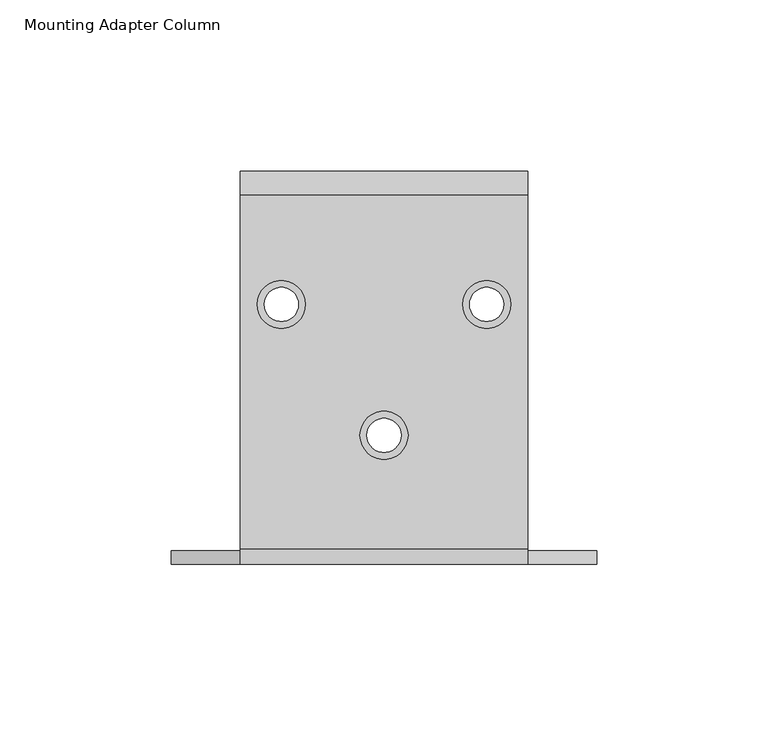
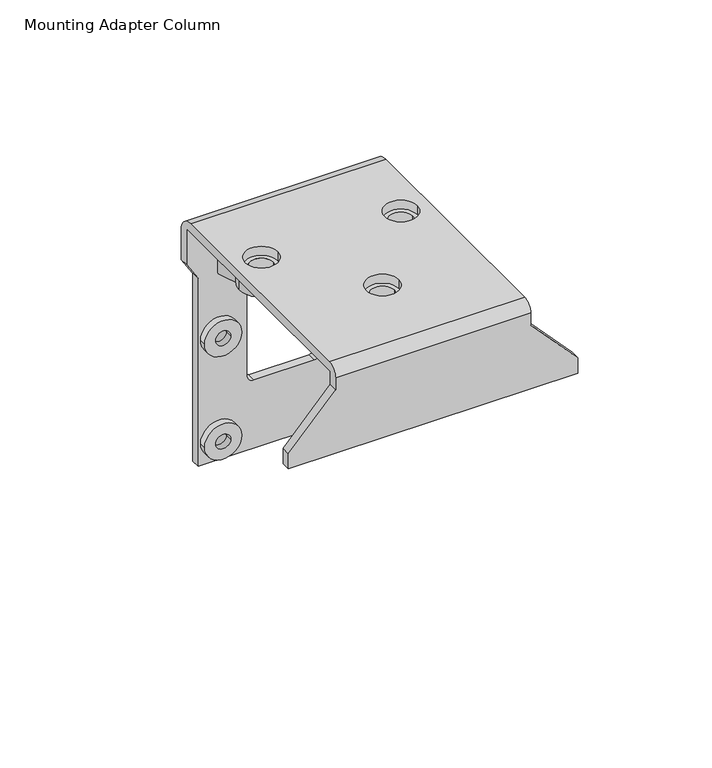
"""IFC4 building model written with IfcOpenShell, lengths in millimetres: proxy geometry, d&b xC-Series Mounting Adapter Column : Mounting Adapter Column."""

from ifc_helpers import new_model, si_unit, point, frame, frame_2d, origin, place, context, project, spatial, polyline, circle_curve, trimmed, segment, composite_curve, outline, extrude, source, transform, mapped, element, save
from ifc_brep_helpers import plane_surface, cylinder_surface, revolved_surface, advanced_brep


def mounting_adapter_column_6306ef07(model_context):
    return source(origin(), model_context, "Body", "SolidModel", [
        extrude(outline(composite_curve([segment(trimmed(circle_curve(frame_2d((12.0, -28.0)), 8.0), [point((12.0, -36.0))], [point((12.0, -20.0))], False, "CARTESIAN"), True, "CONTINUOUS"), segment(trimmed(circle_curve(frame_2d((12.0, -28.0)), 8.0), [point((12.0, -20.0))], [point((12.0, -36.0))], False, "CARTESIAN"), True, "CONTINUOUS")], self_intersect=False), holes=[composite_curve([segment(trimmed(circle_curve(frame_2d((12.0, -28.0)), 3.2497287), [point((12.0, -31.2497287))], [point((12.0, -24.7502713))], True, "CARTESIAN"), True, "CONTINUOUS"), segment(trimmed(circle_curve(frame_2d((12.0, -28.0)), 3.2497287), [point((12.0, -24.7502713))], [point((12.0, -31.2497287))], True, "CARTESIAN"), True, "CONTINUOUS")], self_intersect=False)]), frame((0.0, 51.75, 0.0), z_axis=(0.0, 1.0, 0.0), x_axis=(0.0, 0.0, 1.0)), (0.0, 0.0, 1.0), 3.0),
        extrude(outline(composite_curve([segment(trimmed(circle_curve(frame_2d((12.0, 28.0)), 8.0), [point((12.0, 36.0))], [point((12.0, 20.0))], False, "CARTESIAN"), True, "CONTINUOUS"), segment(trimmed(circle_curve(frame_2d((12.0, 28.0)), 8.0), [point((12.0, 20.0))], [point((12.0, 36.0))], False, "CARTESIAN"), True, "CONTINUOUS")], self_intersect=False), holes=[composite_curve([segment(trimmed(circle_curve(frame_2d((12.0, 28.0)), 3.2497287), [point((12.0, 24.7502713))], [point((12.0, 31.2497287))], True, "CARTESIAN"), True, "CONTINUOUS"), segment(trimmed(circle_curve(frame_2d((12.0, 28.0)), 3.2497287), [point((12.0, 31.2497287))], [point((12.0, 24.7502713))], True, "CARTESIAN"), True, "CONTINUOUS")], self_intersect=False)]), frame((0.0, 51.75, 0.0), z_axis=(0.0, 1.0, 0.0), x_axis=(0.0, 0.0, 1.0)), (0.0, 0.0, 1.0), 3.0),
        extrude(outline(composite_curve([segment(trimmed(circle_curve(frame_2d((-35.0, -28.0)), 8.0), [point((-35.0, -36.0))], [point((-35.0, -20.0))], False, "CARTESIAN"), True, "CONTINUOUS"), segment(trimmed(circle_curve(frame_2d((-35.0, -28.0)), 8.0), [point((-35.0, -20.0))], [point((-35.0, -36.0))], False, "CARTESIAN"), True, "CONTINUOUS")], self_intersect=False), holes=[composite_curve([segment(trimmed(circle_curve(frame_2d((-35.0, -28.0)), 3.2497287), [point((-35.0, -31.2497287))], [point((-35.0, -24.7502713))], True, "CARTESIAN"), True, "CONTINUOUS"), segment(trimmed(circle_curve(frame_2d((-35.0, -28.0)), 3.2497287), [point((-35.0, -24.7502713))], [point((-35.0, -31.2497287))], True, "CARTESIAN"), True, "CONTINUOUS")], self_intersect=False)]), frame((0.0, 51.75, 0.0), z_axis=(0.0, 1.0, 0.0), x_axis=(0.0, 0.0, 1.0)), (0.0, 0.0, 1.0), 3.0),
        extrude(outline(composite_curve([segment(trimmed(circle_curve(frame_2d((-35.0, 28.0)), 8.0), [point((-35.0, 36.0))], [point((-35.0, 20.0))], False, "CARTESIAN"), True, "CONTINUOUS"), segment(trimmed(circle_curve(frame_2d((-35.0, 28.0)), 8.0), [point((-35.0, 20.0))], [point((-35.0, 36.0))], False, "CARTESIAN"), True, "CONTINUOUS")], self_intersect=False), holes=[composite_curve([segment(trimmed(circle_curve(frame_2d((-35.0, 28.0)), 3.2497287), [point((-35.0, 24.7502713))], [point((-35.0, 31.2497287))], True, "CARTESIAN"), True, "CONTINUOUS"), segment(trimmed(circle_curve(frame_2d((-35.0, 28.0)), 3.2497287), [point((-35.0, 31.2497287))], [point((-35.0, 24.7502713))], True, "CARTESIAN"), True, "CONTINUOUS")], self_intersect=False)]), frame((0.0, 51.75, 0.0), z_axis=(0.0, 1.0, 0.0), x_axis=(0.0, 0.0, 1.0)), (0.0, 0.0, 1.0), 3.0),
        advanced_brep(
        [(42.0, -52.25, 59.0), (42.0, -52.25, 65.0), (42.0, 54.75, 65.0), (42.0, 54.75, 48.4019352), (42.0, 58.75, 48.4019352), (42.0, 58.75, 62.0), (42.0, 51.75, 69.0), (42.0, -51.75, 69.0), (42.0, -56.25, 64.5), (42.0, -56.25, 59.0), (-42.0, -56.25, 59.0), (-42.0, -56.25, 64.5), (-42.0, -51.75, 69.0), (-42.0, 51.75, 69.0), (-42.0, 58.75, 62.0), (-42.0, 58.75, 48.4019352), (-42.0, 54.75, 48.4019352), (-42.0, 54.75, 65.0), (-42.0, -52.25, 65.0), (-42.0, -52.25, 59.0), (-62.25, -56.25, 37.0), (-62.25, -56.25, 30.0), (62.25, -56.25, 30.0), (62.25, -56.25, 37.0), (62.25, -52.25, 37.0), (62.25, -52.25, 30.0), (-62.25, -52.25, 30.0), (-62.25, -52.25, 37.0), (-28.8426067, 54.75, 65.0), (-17.9431901, 24.8040989, 65.0), (-14.1844196, 26.1721794, 65.0), (-24.5858956, 54.75, 65.0), (24.5858956, 54.75, 65.0), (14.1844196, 26.1721794, 65.0), (17.9431901, 24.8040989, 65.0), (28.8426067, 54.75, 65.0), (-37.0161123, 19.75, 65.0), (-22.9838877, 19.75, 65.0), (22.9838877, 19.75, 65.0), (37.0161123, 19.75, 65.0), (-7.0161123, -18.5, 65.0), (7.0161123, -18.5, 65.0), (28.8426067, 54.75, 40.0), (24.5858956, 54.75, 40.0), (-24.5858956, 54.75, 40.0), (-28.8426067, 54.75, 40.0), (-37.0, 54.75, 40.5814234), (-37.0, 54.75, -45.0), (37.0, 54.75, -45.0), (37.0, 54.75, 40.5814234), (16.0, 54.75, 28.0), (16.0, 54.75, -11.0), (13.0, 54.75, -14.0), (-13.0, 54.75, -14.0), (-16.0, 54.75, -11.0), (-16.0, 54.75, 28.0), (-31.2497287, 54.75, 12.0), (-24.7502713, 54.75, 12.0), (31.2497287, 54.75, 12.0), (24.7502713, 54.75, 12.0), (-31.2497287, 54.75, -35.0), (-24.7502713, 54.75, -35.0), (31.2497287, 54.75, -35.0), (24.7502713, 54.75, -35.0), (37.0, 58.75, 40.5814234), (37.0, 58.75, -45.0), (-37.0, 58.75, -45.0), (-37.0, 58.75, 40.5814234), (16.0, 58.75, 28.0), (-16.0, 58.75, 28.0), (-16.0, 58.75, -11.0), (-13.0, 58.75, -14.0), (13.0, 58.75, -14.0), (16.0, 58.75, -11.0), (-31.2497287, 58.75, 12.0), (-24.7502713, 58.75, 12.0), (31.2497287, 58.75, 12.0), (24.7502713, 58.75, 12.0), (-31.2497287, 58.75, -35.0), (-24.7502713, 58.75, -35.0), (31.2497287, 58.75, -35.0), (24.7502713, 58.75, -35.0), (-37.0161123, 19.75, 69.0), (-22.9838877, 19.75, 69.0), (22.9838877, 19.75, 69.0), (37.0161123, 19.75, 69.0), (-7.0161123, -18.5, 69.0), (7.0161123, -18.5, 69.0), (-14.1844196, 26.1721794, 59.0), (-20.6828023, 44.0263392, 40.0), (-24.4415728, 42.6582587, 40.0), (-17.9431901, 24.8040989, 59.0), (20.6828023, 44.0263392, 40.0), (14.1844196, 26.1721794, 59.0), (24.4415728, 42.6582587, 40.0), (17.9431901, 24.8040989, 59.0)],
        [
            (0, 1),
            (1, 2),
            (2, 3),
            (3, 4),
            (4, 5),
            (5, 6, circle_curve(frame((42.0, 51.75, 62.0), z_axis=(1.0, 0.0, 0.0), x_axis=(0.0, 0.0, 1.0)), 7.0)),
            (6, 7),
            (7, 8, circle_curve(frame((42.0, -51.75, 64.5), z_axis=(1.0, 0.0, 0.0), x_axis=(0.0, 0.0, 1.0)), 4.5)),
            (8, 9),
            (9, 0),
            (10, 11),
            (11, 12, circle_curve(frame((-42.0, -51.75, 64.5), z_axis=(-1.0, 0.0, 0.0), x_axis=(0.0, 0.0, 1.0)), 4.5)),
            (12, 13),
            (13, 14, circle_curve(frame((-42.0, 51.75, 62.0), z_axis=(-1.0, 0.0, 0.0), x_axis=(0.0, 0.0, 1.0)), 7.0)),
            (14, 15),
            (15, 16),
            (16, 17),
            (17, 18),
            (18, 19),
            (19, 10),
            (7, 12),
            (11, 8),
            (10, 20),
            (20, 21),
            (21, 22),
            (22, 23),
            (23, 9),
            (0, 24),
            (24, 25),
            (25, 26),
            (26, 27),
            (27, 19),
            (18, 1),
            (17, 28),
            (28, 29),
            (29, 30),
            (30, 31),
            (31, 32),
            (32, 33),
            (33, 34),
            (34, 35),
            (35, 2),
            (36, 37, circle_curve(frame((-30.0, 19.75, 65.0), z_axis=(0.0, 0.0, 1.0), x_axis=(1.0, 0.0, 0.0)), 7.0161123)),
            (37, 36, circle_curve(frame((-30.0, 19.75, 65.0), z_axis=(0.0, 0.0, 1.0), x_axis=(1.0, 0.0, 0.0)), 7.0161123)),
            (38, 39, circle_curve(frame((30.0, 19.75, 65.0), z_axis=(0.0, 0.0, 1.0), x_axis=(1.0, 0.0, 0.0)), 7.0161123)),
            (39, 38, circle_curve(frame((30.0, 19.75, 65.0), z_axis=(0.0, 0.0, 1.0), x_axis=(1.0, 0.0, 0.0)), 7.0161123)),
            (40, 41, circle_curve(frame((0.0, -18.5, 65.0), z_axis=(0.0, 0.0, 1.0), x_axis=(1.0, 0.0, 0.0)), 7.0161123)),
            (41, 40, circle_curve(frame((0.0, -18.5, 65.0), z_axis=(0.0, 0.0, 1.0), x_axis=(1.0, 0.0, 0.0)), 7.0161123)),
            (35, 42),
            (42, 43),
            (43, 32),
            (31, 44),
            (44, 45),
            (45, 28),
            (16, 46),
            (46, 47),
            (47, 48),
            (48, 49),
            (49, 3),
            (50, 51),
            (51, 52, circle_curve(frame((13.0, 54.75, -11.0), z_axis=(0.0, 1.0, 0.0), x_axis=(1.0, 0.0, 0.0)), 3.0)),
            (52, 53),
            (53, 54, circle_curve(frame((-13.0, 54.75, -11.0), z_axis=(0.0, 1.0, 0.0), x_axis=(1.0, 0.0, 0.0)), 3.0)),
            (54, 55),
            (55, 50),
            (56, 57, circle_curve(frame((-28.0, 54.75, 12.0), z_axis=(0.0, 1.0, 0.0), x_axis=(1.0, 0.0, 0.0)), 3.2497287)),
            (57, 56, circle_curve(frame((-28.0, 54.75, 12.0), z_axis=(0.0, 1.0, 0.0), x_axis=(1.0, 0.0, 0.0)), 3.2497287)),
            (58, 59, circle_curve(frame((28.0, 54.75, 12.0), z_axis=(0.0, 1.0, 0.0), x_axis=(-1.0, 0.0, 0.0)), 3.2497287)),
            (59, 58, circle_curve(frame((28.0, 54.75, 12.0), z_axis=(0.0, 1.0, 0.0), x_axis=(-1.0, 0.0, 0.0)), 3.2497287)),
            (60, 61, circle_curve(frame((-28.0, 54.75, -35.0), z_axis=(0.0, 1.0, 0.0), x_axis=(1.0, 0.0, 0.0)), 3.2497287)),
            (61, 60, circle_curve(frame((-28.0, 54.75, -35.0), z_axis=(0.0, 1.0, 0.0), x_axis=(1.0, 0.0, 0.0)), 3.2497287)),
            (62, 63, circle_curve(frame((28.0, 54.75, -35.0), z_axis=(0.0, 1.0, 0.0), x_axis=(-1.0, 0.0, 0.0)), 3.2497287)),
            (63, 62, circle_curve(frame((28.0, 54.75, -35.0), z_axis=(0.0, 1.0, 0.0), x_axis=(-1.0, 0.0, 0.0)), 3.2497287)),
            (4, 64),
            (64, 65),
            (65, 66),
            (66, 67),
            (67, 15),
            (14, 5),
            (68, 69),
            (69, 70),
            (70, 71, circle_curve(frame((-13.0, 58.75, -11.0), z_axis=(0.0, -1.0, 0.0), x_axis=(1.0, 0.0, 0.0)), 3.0)),
            (71, 72),
            (72, 73, circle_curve(frame((13.0, 58.75, -11.0), z_axis=(0.0, -1.0, 0.0), x_axis=(1.0, 0.0, 0.0)), 3.0)),
            (73, 68),
            (74, 75, circle_curve(frame((-28.0, 58.75, 12.0), z_axis=(0.0, -1.0, 0.0), x_axis=(1.0, 0.0, 0.0)), 3.2497287)),
            (75, 74, circle_curve(frame((-28.0, 58.75, 12.0), z_axis=(0.0, -1.0, 0.0), x_axis=(1.0, 0.0, 0.0)), 3.2497287)),
            (76, 77, circle_curve(frame((28.0, 58.75, 12.0), z_axis=(0.0, -1.0, 0.0), x_axis=(-1.0, 0.0, 0.0)), 3.2497287)),
            (77, 76, circle_curve(frame((28.0, 58.75, 12.0), z_axis=(0.0, -1.0, 0.0), x_axis=(-1.0, 0.0, 0.0)), 3.2497287)),
            (78, 79, circle_curve(frame((-28.0, 58.75, -35.0), z_axis=(0.0, -1.0, 0.0), x_axis=(1.0, 0.0, 0.0)), 3.2497287)),
            (79, 78, circle_curve(frame((-28.0, 58.75, -35.0), z_axis=(0.0, -1.0, 0.0), x_axis=(1.0, 0.0, 0.0)), 3.2497287)),
            (80, 81, circle_curve(frame((28.0, 58.75, -35.0), z_axis=(0.0, -1.0, 0.0), x_axis=(-1.0, 0.0, 0.0)), 3.2497287)),
            (81, 80, circle_curve(frame((28.0, 58.75, -35.0), z_axis=(0.0, -1.0, 0.0), x_axis=(-1.0, 0.0, 0.0)), 3.2497287)),
            (13, 6),
            (82, 83, circle_curve(frame((-30.0, 19.75, 69.0), z_axis=(0.0, 0.0, -1.0), x_axis=(1.0, 0.0, 0.0)), 7.0161123)),
            (83, 82, circle_curve(frame((-30.0, 19.75, 69.0), z_axis=(0.0, 0.0, -1.0), x_axis=(1.0, 0.0, 0.0)), 7.0161123)),
            (84, 85, circle_curve(frame((30.0, 19.75, 69.0), z_axis=(0.0, 0.0, -1.0), x_axis=(1.0, 0.0, 0.0)), 7.0161123)),
            (85, 84, circle_curve(frame((30.0, 19.75, 69.0), z_axis=(0.0, 0.0, -1.0), x_axis=(1.0, 0.0, 0.0)), 7.0161123)),
            (86, 87, circle_curve(frame((0.0, -18.5, 69.0), z_axis=(0.0, 0.0, -1.0), x_axis=(1.0, 0.0, 0.0)), 7.0161123)),
            (87, 86, circle_curve(frame((0.0, -18.5, 69.0), z_axis=(0.0, 0.0, -1.0), x_axis=(1.0, 0.0, 0.0)), 7.0161123)),
            (82, 36),
            (37, 83),
            (84, 38),
            (39, 85),
            (86, 40),
            (41, 87),
            (30, 88),
            (88, 89),
            (89, 44),
            (90, 91),
            (91, 29),
            (45, 90),
            (89, 90),
            (91, 88),
            (49, 64),
            (67, 46),
            (66, 47),
            (65, 48),
            (50, 68),
            (73, 51),
            (72, 52),
            (71, 53),
            (70, 54),
            (69, 55),
            (56, 74),
            (75, 57),
            (58, 76),
            (77, 59),
            (60, 78),
            (79, 61),
            (62, 80),
            (81, 63),
            (92, 93),
            (93, 33),
            (43, 92),
            (94, 42),
            (34, 95),
            (95, 94),
            (94, 92),
            (93, 95),
            (22, 25),
            (24, 23),
            (27, 20),
            (26, 21),
        ],
        [
            plane_surface(frame((42.0, 44.75, 69.0), z_axis=(1.0, 0.0, 0.0), x_axis=(0.0, 0.0, -1.0))),
            plane_surface(frame((-42.0, 44.75, 69.0), z_axis=(-1.0, 0.0, 0.0), x_axis=(0.0, 0.0, 1.0))),
            cylinder_surface(frame((0.0, -51.75, 64.5), z_axis=(1.0, 0.0, 0.0), x_axis=(0.0, 0.0, 1.0)), 4.5),
            plane_surface(frame((42.0, -56.25, 64.5), z_axis=(0.0, -1.0, 0.0), x_axis=(-1.0, 0.0, 0.0))),
            plane_surface(frame((42.0, -52.25, 59.0), z_axis=(0.0, 1.0, 0.0), x_axis=(-1.0, 0.0, 0.0))),
            plane_surface(frame((42.0, 44.75, 65.0), z_axis=(0.0, 0.0, -1.0), x_axis=(-1.0, 0.0, 0.0))),
            plane_surface(frame((42.0, 54.75, 65.0), z_axis=(0.0, -1.0, 0.0), x_axis=(-1.0, 0.0, 0.0))),
            plane_surface(frame((42.0, 58.75, 48.4019352), z_axis=(0.0, 1.0, 0.0), x_axis=(-1.0, 0.0, 0.0))),
            cylinder_surface(frame((-42.0, 51.75, 62.0), z_axis=(1.0, 0.0, 0.0), x_axis=(0.0, 0.0, 1.0)), 7.0),
            plane_surface(frame((42.0, 51.75, 69.0), z_axis=(0.0, 0.0, 1.0), x_axis=(-1.0, 0.0, 0.0))),
            revolved_surface(polyline([(-22.9838877, 19.75, 65.0), (-22.9838877, 19.75, 69.0)]), (-30.0, 19.75, 0.0), (0.0, 0.0, -1.0)),
            revolved_surface(polyline([(37.0161123, 19.75, 65.0), (37.0161123, 19.75, 69.0)]), (30.0, 19.75, 0.0), (0.0, 0.0, -1.0)),
            revolved_surface(polyline([(7.0161123, -18.5, 65.0), (7.0161123, -18.5, 69.0)]), (0.0, -18.5, 0.0), (0.0, 0.0, -1.0)),
            plane_surface(frame((-25.0838362, 56.1180806, 40.0), z_axis=(0.9396926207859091, 0.34202014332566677, 0.0), x_axis=(-0.34202014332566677, 0.9396926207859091, 0.0))),
            plane_surface(frame((-28.8426067, 54.75, 40.0), z_axis=(-0.9396926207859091, -0.34202014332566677, 0.0), x_axis=(0.34202014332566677, -0.9396926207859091, 0.0))),
            plane_surface(frame((-20.6828023, 44.0263392, 40.0), z_axis=(0.0, 0.0, -1.0), x_axis=(-0.939692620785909, -0.34202014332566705, 0.0))),
            plane_surface(frame((-14.1844196, 26.1721794, 65.0), z_axis=(0.34202014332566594, -0.9396926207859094, 0.0), x_axis=(-0.9396926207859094, -0.34202014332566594, 0.0))),
            plane_surface(frame((-14.1844196, 26.1721794, 59.0), z_axis=(0.24184476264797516, -0.6644630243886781, -0.7071067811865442), x_axis=(-0.939692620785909, -0.34202014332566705, 0.0))),
            plane_surface(frame((37.0, 54.75, 40.5814234), z_axis=(0.8425221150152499, 0.0, -0.5386617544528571), x_axis=(0.0, 1.0, 0.0))),
            plane_surface(frame((-42.0, 54.75, 48.4019352), z_axis=(-0.84252211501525, 0.0, -0.538661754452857), x_axis=(0.0, 1.0, 0.0))),
            plane_surface(frame((-37.0, 54.75, 40.5814234), z_axis=(-1.0, 0.0, 0.0), x_axis=(0.0, 1.0, 0.0))),
            plane_surface(frame((-37.0, 54.75, -45.0), z_axis=(0.0, 0.0, -1.0), x_axis=(0.0, 1.0, 0.0))),
            plane_surface(frame((37.0, 54.75, -45.0), z_axis=(1.0, 0.0, 0.0), x_axis=(0.0, 1.0, 0.0))),
            plane_surface(frame((16.0, 54.75, 28.0), z_axis=(-1.0, 0.0, 0.0), x_axis=(0.0, 1.0, 0.0))),
            revolved_surface(polyline([(16.0, 58.75, -11.0), (16.0, 54.75, -11.0)]), (13.0, 0.0, -11.0), (0.0, 1.0, 0.0)),
            plane_surface(frame((13.0, 54.75, -14.0), z_axis=(0.0, 0.0, 1.0), x_axis=(0.0, 1.0, 0.0))),
            revolved_surface(polyline([(-10.0, 58.75, -11.0), (-10.0, 54.75, -11.0)]), (-13.0, 0.0, -11.0), (0.0, 1.0, 0.0)),
            plane_surface(frame((-16.0, 54.75, -11.0), z_axis=(1.0, 0.0, 0.0), x_axis=(0.0, 1.0, 0.0))),
            plane_surface(frame((-16.0, 54.75, 28.0), z_axis=(0.0, 0.0, -1.0), x_axis=(0.0, 1.0, 0.0))),
            revolved_surface(polyline([(-24.7502713, 58.75, 12.0), (-24.7502713, 54.75, 12.0)]), (-28.0, 0.0, 12.0), (0.0, 1.0, 0.0)),
            revolved_surface(polyline([(24.7502713, 58.75, 12.0), (24.7502713, 54.75, 12.0)]), (28.0, 0.0, 12.0), (0.0, 1.0, 0.0)),
            revolved_surface(polyline([(-24.7502713, 58.75, -35.0), (-24.7502713, 54.75, -35.0)]), (-28.0, 0.0, -35.0), (0.0, 1.0, 0.0)),
            revolved_surface(polyline([(24.7502713, 58.75, -35.0), (24.7502713, 54.75, -35.0)]), (28.0, 0.0, -35.0), (0.0, 1.0, 0.0)),
            plane_surface(frame((14.1844196, 26.1721794, 59.0), z_axis=(-0.9396926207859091, 0.34202014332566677, 0.0), x_axis=(-0.2418447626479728, -0.6644630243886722, 0.7071067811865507))),
            plane_surface(frame((17.9431901, 24.8040989, 59.0), z_axis=(0.9396926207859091, -0.34202014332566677, 0.0), x_axis=(0.2418447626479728, 0.6644630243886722, -0.7071067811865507))),
            plane_surface(frame((25.0838362, 56.1180806, 40.0), z_axis=(0.0, 0.0, -1.0000000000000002), x_axis=(0.9396926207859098, -0.3420201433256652, 0.0))),
            plane_surface(frame((14.1844196, 26.1721794, 59.0), z_axis=(-0.3420201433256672, -0.939692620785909, 0.0), x_axis=(0.939692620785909, -0.3420201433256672, 0.0))),
            plane_surface(frame((20.6828023, 44.0263392, 40.0), z_axis=(-0.24184476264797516, -0.6644630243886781, -0.7071067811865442), x_axis=(0.939692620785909, -0.34202014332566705, 0.0))),
            plane_surface(frame((62.25, -56.25, 30.0), z_axis=(1.0, 0.0, 0.0), x_axis=(0.0, 1.0, 0.0))),
            plane_surface(frame((62.25, -56.25, 37.0), z_axis=(0.7357643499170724, 0.0, 0.6772376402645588), x_axis=(0.0, 1.0, 0.0))),
            plane_surface(frame((-42.0, -56.25, 59.0), z_axis=(-0.7357643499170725, 0.0, 0.6772376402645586), x_axis=(0.0, 1.0, 0.0))),
            plane_surface(frame((-62.25, -56.25, 37.0), z_axis=(-1.0, 0.0, 0.0), x_axis=(0.0, 1.0, 0.0))),
            plane_surface(frame((-62.25, -56.25, 30.0), z_axis=(0.0, 0.0, -1.0), x_axis=(0.0, 1.0, 0.0))),
        ],
        [
            (0, [[1, 2, 3, 4, 5, 6, 7, 8, 9, 10]]),
            (1, [[11, 12, 13, 14, 15, 16, 17, 18, 19, 20]]),
            (2, [[-8, 21, -12, 22]]),
            (3, [[-9, -22, -11, 23, 24, 25, 26, 27]]),
            (4, [[-1, 28, 29, 30, 31, 32, -19, 33]]),
            (5, [[-33, -18, 34, 35, 36, 37, 38, 39, 40, 41, 42, -2], [43, 44], [45, 46], [47, 48]]),
            (6, [[-3, -42, 49, 50, 51, -38, 52, 53, 54, -34, -17, 55, 56, 57, 58, 59], [60, 61, 62, 63, 64, 65], [66, 67], [68, 69], [70, 71], [72, 73]]),
            (7, [[-5, 74, 75, 76, 77, 78, -15, 79], [80, 81, 82, 83, 84, 85], [86, 87], [88, 89], [90, 91], [92, 93]]),
            (8, [[-6, -79, -14, 94]]),
            (9, [[-21, -7, -94, -13], [95, 96], [97, 98], [99, 100]]),
            (10, [[-95, 101, -44, 102]]),
            (10, [[-96, -102, -43, -101]]),
            (11, [[-97, 103, -46, 104]]),
            (11, [[-98, -104, -45, -103]]),
            (12, [[-99, 105, -48, 106]]),
            (12, [[-100, -106, -47, -105]]),
            (13, [[107, 108, 109, -52, -37]]),
            (14, [[110, 111, -35, -54, 112]]),
            (15, [[-112, -53, -109, 113]]),
            (16, [[-107, -36, -111, 114]]),
            (17, [[-108, -114, -110, -113]]),
            (18, [[-59, 115, -74, -4]]),
            (19, [[-55, -16, -78, 116]]),
            (20, [[-56, -116, -77, 117]]),
            (21, [[-57, -117, -76, 118]]),
            (22, [[-58, -118, -75, -115]]),
            (23, [[-60, 119, -85, 120]]),
            (24, [[-61, -120, -84, 121]]),
            (25, [[-62, -121, -83, 122]]),
            (26, [[-63, -122, -82, 123]]),
            (27, [[-64, -123, -81, 124]]),
            (28, [[-65, -124, -80, -119]]),
            (29, [[-66, 125, -87, 126]]),
            (29, [[-67, -126, -86, -125]]),
            (30, [[-68, 127, -89, 128]]),
            (30, [[-69, -128, -88, -127]]),
            (31, [[-70, 129, -91, 130]]),
            (31, [[-71, -130, -90, -129]]),
            (32, [[-72, 131, -93, 132]]),
            (32, [[-73, -132, -92, -131]]),
            (33, [[133, 134, -39, -51, 135]]),
            (34, [[136, -49, -41, 137, 138]]),
            (35, [[-136, 139, -135, -50]]),
            (36, [[-134, 140, -137, -40]]),
            (37, [[-133, -139, -138, -140]]),
            (38, [[-26, 141, -29, 142]]),
            (39, [[-27, -142, -28, -10]]),
            (40, [[-23, -20, -32, 143]]),
            (41, [[-24, -143, -31, 144]]),
            (42, [[-25, -144, -30, -141]]),
        ],
    ),
        extrude(outline(composite_curve([segment(trimmed(circle_curve(frame_2d((-30.0, 19.75)), 9.5099435), [point((-39.5099435, 19.75))], [point((-20.4900565, 19.75))], False, "CARTESIAN"), True, "CONTINUOUS"), segment(trimmed(circle_curve(frame_2d((-30.0, 19.75)), 9.5099435), [point((-20.4900565, 19.75))], [point((-39.5099435, 19.75))], False, "CARTESIAN"), True, "CONTINUOUS")], self_intersect=False), holes=[composite_curve([segment(trimmed(circle_curve(frame_2d((-30.0, 19.75)), 5.0), [point((-35.0, 19.75))], [point((-25.0, 19.75))], True, "CARTESIAN"), True, "CONTINUOUS"), segment(trimmed(circle_curve(frame_2d((-30.0, 19.75)), 5.0), [point((-25.0, 19.75))], [point((-35.0, 19.75))], True, "CARTESIAN"), True, "CONTINUOUS")], self_intersect=False)]), frame((0.0, 0.0, 57.4), z_axis=(0.0, 0.0, 1.0), x_axis=(1.0, 0.0, 0.0)), (0.0, 0.0, 1.0), 7.6),
        extrude(outline(composite_curve([segment(trimmed(circle_curve(frame_2d((0.0, -18.5)), 9.5099435), [point((-9.5099435, -18.5))], [point((9.5099435, -18.5))], False, "CARTESIAN"), True, "CONTINUOUS"), segment(trimmed(circle_curve(frame_2d((0.0, -18.5)), 9.5099435), [point((9.5099435, -18.5))], [point((-9.5099435, -18.5))], False, "CARTESIAN"), True, "CONTINUOUS")], self_intersect=False), holes=[composite_curve([segment(trimmed(circle_curve(frame_2d((0.0, -18.5)), 5.0), [point((-5.0, -18.5))], [point((5.0, -18.5))], True, "CARTESIAN"), True, "CONTINUOUS"), segment(trimmed(circle_curve(frame_2d((0.0, -18.5)), 5.0), [point((5.0, -18.5))], [point((-5.0, -18.5))], True, "CARTESIAN"), True, "CONTINUOUS")], self_intersect=False)]), frame((0.0, 0.0, 57.4), z_axis=(0.0, 0.0, 1.0), x_axis=(1.0, 0.0, 0.0)), (0.0, 0.0, 1.0), 7.6),
        extrude(outline(composite_curve([segment(trimmed(circle_curve(frame_2d((30.0, 19.75)), 9.5099435), [point((20.4900565, 19.75))], [point((39.5099435, 19.75))], False, "CARTESIAN"), True, "CONTINUOUS"), segment(trimmed(circle_curve(frame_2d((30.0, 19.75)), 9.5099435), [point((39.5099435, 19.75))], [point((20.4900565, 19.75))], False, "CARTESIAN"), True, "CONTINUOUS")], self_intersect=False), holes=[composite_curve([segment(trimmed(circle_curve(frame_2d((30.0, 19.75)), 5.0), [point((25.0, 19.75))], [point((35.0, 19.75))], True, "CARTESIAN"), True, "CONTINUOUS"), segment(trimmed(circle_curve(frame_2d((30.0, 19.75)), 5.0), [point((35.0, 19.75))], [point((25.0, 19.75))], True, "CARTESIAN"), True, "CONTINUOUS")], self_intersect=False)]), frame((0.0, 0.0, 57.4), z_axis=(0.0, 0.0, 1.0), x_axis=(1.0, 0.0, 0.0)), (0.0, 0.0, 1.0), 7.6),
    ])


if __name__ == "__main__":
    model = new_model("IFC4")
    model_context = context("Model", 3, world=origin())
    ifc_project = project(units=[si_unit("LENGTHUNIT", "METRE", prefix="MILLI")], contexts=[model_context])
    site = spatial("IfcSite", under=ifc_project)
    building = spatial("IfcBuilding", under=site)
    placement = place(None, origin())
    mounting_adapter_column_shape = mounting_adapter_column_6306ef07(model_context)
    element("IfcBuildingElementProxy", 1, Name="d&b xC-Series Mounting Adapter Column : Mounting Adapter Column", ObjectType="d&b xC-Series Mounting Adapter Column : Mounting Adapter Column", at=placement, inside=building, context=model_context, shape_type="MappedRepresentation", body=[
        mapped(mounting_adapter_column_shape, transform((0.0, 0.0, 0.0), x_axis=(1.0, 0.0, 0.0), y_axis=(0.0, 1.0, 0.0), z_axis=(0.0, 0.0, 1.0))),
    ])
    save(model, "model.ifc")
